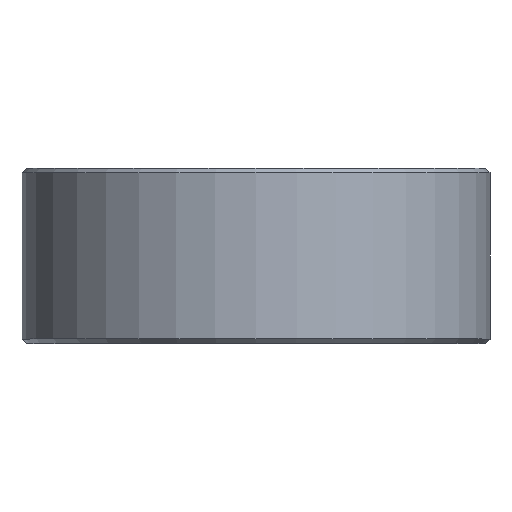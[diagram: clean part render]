
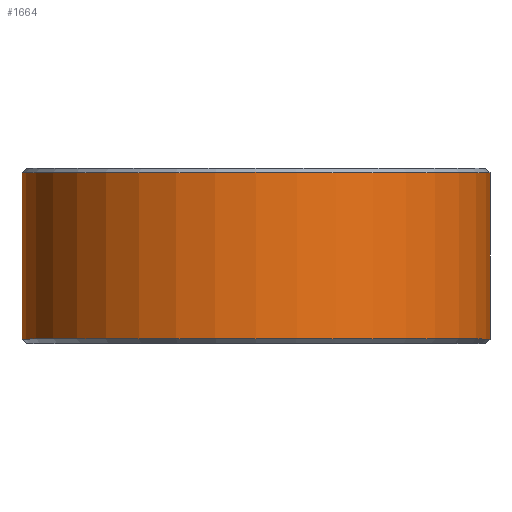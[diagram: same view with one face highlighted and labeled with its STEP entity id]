
A CAD part, top view. The second image highlights one B-rep face of the part: STEP entity #1664.
In plain terms, the highlighted cylindrical face has radius 10.7 mm (diameter 21.4 mm), a partial arc.
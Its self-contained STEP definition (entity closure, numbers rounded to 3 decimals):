
#59=DIRECTION('',(0.,-1.,0.));
#60=VECTOR('',#59,7.6);
#61=CARTESIAN_POINT('',(-10.7,7.8,0.));
#62=LINE('',#61,#60);
#376=CARTESIAN_POINT('',(0.,0.2,0.));
#377=DIRECTION('',(0.,-1.,0.));
#378=DIRECTION('',(1.,0.,0.));
#379=AXIS2_PLACEMENT_3D('',#376,#377,#378);
#381=CARTESIAN_POINT('',(0.,7.8,0.));
#382=DIRECTION('',(0.,1.,0.));
#383=DIRECTION('',(-1.,0.,0.));
#384=AXIS2_PLACEMENT_3D('',#381,#382,#383);
#386=DIRECTION('',(0.,-1.,0.));
#387=VECTOR('',#386,7.6);
#388=CARTESIAN_POINT('',(10.7,7.8,0.));
#389=LINE('',#388,#387);
#1267=CARTESIAN_POINT('',(10.7,7.8,0.));
#1268=VERTEX_POINT('',#1267);
#1269=CARTESIAN_POINT('',(-10.7,7.8,0.));
#1270=VERTEX_POINT('',#1269);
#1271=CARTESIAN_POINT('',(10.7,0.2,0.));
#1272=VERTEX_POINT('',#1271);
#1273=CARTESIAN_POINT('',(-10.7,0.2,0.));
#1274=VERTEX_POINT('',#1273);
#1652=CARTESIAN_POINT('',(0.,0.,0.));
#1653=DIRECTION('',(0.,1.,0.));
#1654=DIRECTION('',(1.,0.,0.));
#1655=AXIS2_PLACEMENT_3D('',#1652,#1653,#1654);
#1656=CYLINDRICAL_SURFACE('',#1655,10.7);
#1657=ORIENTED_EDGE('',*,*,#1476,.T.);
#1658=ORIENTED_EDGE('',*,*,#1507,.F.);
#1660=ORIENTED_EDGE('',*,*,#1659,.T.);
#1661=ORIENTED_EDGE('',*,*,#1503,.T.);
#1662=EDGE_LOOP('',(#1657,#1658,#1660,#1661));
#1663=FACE_OUTER_BOUND('',#1662,.F.);
#1664=ADVANCED_FACE('',(#1663),#1656,.T.);
#380=CIRCLE('',#379,10.7);
#385=CIRCLE('',#384,10.7);
#1476=EDGE_CURVE('',#1272,#1274,#380,.T.);
#1503=EDGE_CURVE('',#1268,#1272,#389,.T.);
#1507=EDGE_CURVE('',#1270,#1274,#62,.T.);
#1659=EDGE_CURVE('',#1270,#1268,#385,.T.);
